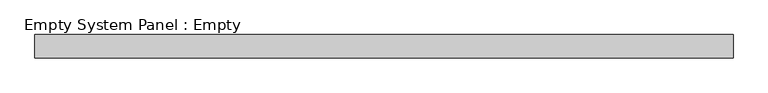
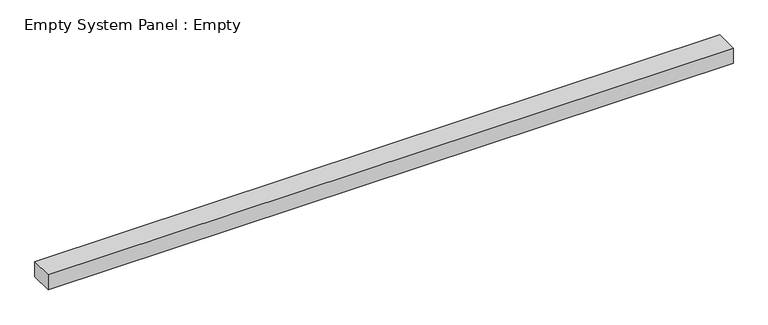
"""IFC4 building model written with IfcOpenShell, lengths in millimetres: plate geometry, Empty System Panel : Empty."""

from ifc_helpers import new_model, si_unit, origin, origin_with_axes, place, context, project, spatial, polyline, outline, extrude, source, transform, mapped, element, save


def empty_system_panel_empty_bd220a42(model_context):
    return source(origin(), model_context, "Body", "SweptSolid", [
        extrude(outline(polyline([(1500.0, 50.0), (-1500.0, 50.0), (-1500.0, 150.0), (1500.0, 150.0), (1500.0, 50.0)])), origin_with_axes(), (0.0, 0.0, 1.0), 70.0),
    ])


if __name__ == "__main__":
    model = new_model("IFC4")
    model_context = context("Model", 3, world=origin())
    ifc_project = project(units=[si_unit("LENGTHUNIT", "METRE", prefix="MILLI")], contexts=[model_context])
    site = spatial("IfcSite", under=ifc_project)
    building = spatial("IfcBuilding", under=site)
    placement = place(None, origin())
    empty_system_panel_empty_shape = empty_system_panel_empty_bd220a42(model_context)
    element("IfcPlate", 1, ObjectType="Empty System Panel : Empty", at=placement, inside=building, context=model_context, shape_type="MappedRepresentation", body=[
        mapped(empty_system_panel_empty_shape, transform((0.0, 0.0, 0.0), x_axis=(1.0, 0.0, 0.0), y_axis=(0.0, 1.0, 0.0), z_axis=(0.0, 0.0, 1.0))),
    ])
    save(model, "model.ifc")
